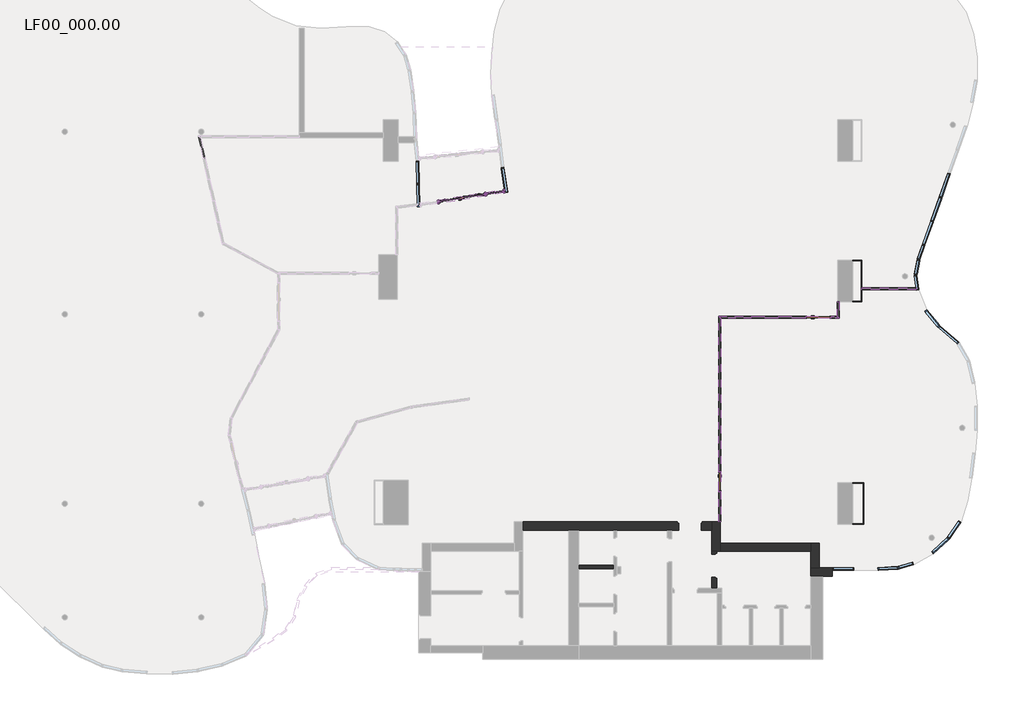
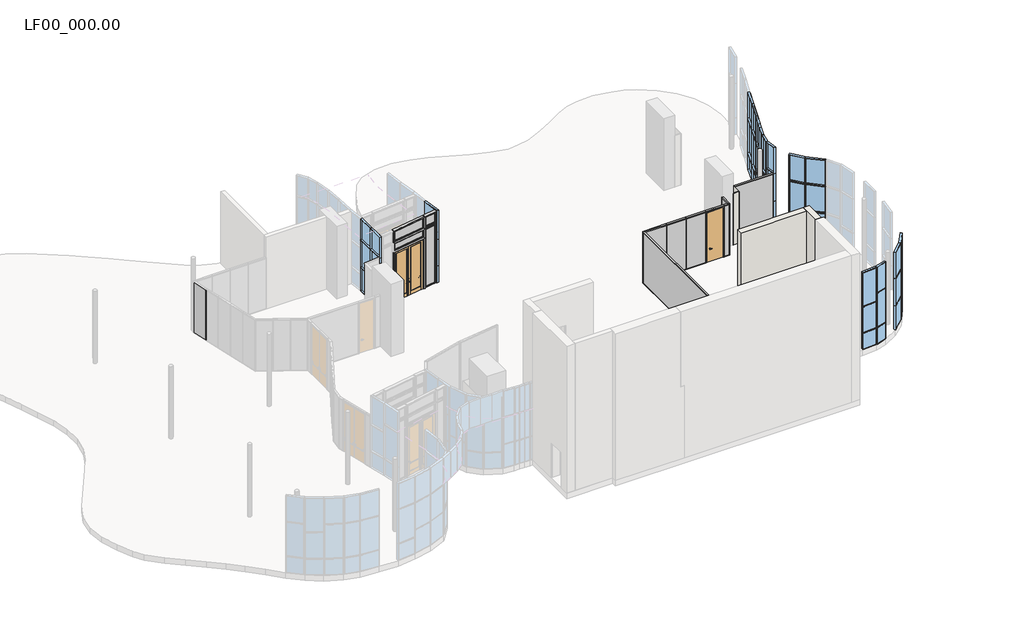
# One storey, part 4 of 8: 43 members, 16 windows, 13 plates, 13 walls, 3 doors.
"""IFC4 building model written with IfcOpenShell, lengths in millimetres."""

from ifc_helpers import new_model, si_unit, origin, origin_with_axes, place, context, project, spatial, polyline, outline, extrude, faceted_brep, transform, mapped, element, save
from components import door_f6d3ca97, ve_100_0215b1d1, ve_80_916fddef, montante_rettangolare_ac_025x025_ae409ff8, montante_rettangolare_ac_025x025_ba0b5886, montante_rettangolare_ac_025x025_25a4d1a1, montante_rettangolare_ac_025x025_21ed5f5e, montante_rettangolare_ac_025x025_512be482, montante_rettangolare_ac_025x025_d0ddf7e4, montante_rettangolare_ac_025x025_b97b00cb, montante_rettangolare_ac_025x025_a02916a3, montante_rettangolare_ac_080x010_f14e0e64, montante_rettangolare_ac_080x020_015a60fd, montante_rettangolare_ac_080x020_546eea0c, montante_rettangolare_ac_080x020_c2d88d0b, montante_rettangolare_ac_080x020_cc3f91c2, montante_rettangolare_ac_080x020_a9d1659b, montante_rettangolare_ac_080x020_e2273d97, montante_rettangolare_ac_080x020_6e751d40, montante_rettangolare_ac_080x020_f5492f73, montante_rettangolare_ac_080x050_ac485b46, montante_rettangolare_ac_080x050_48d6a012, montante_rettangolare_ac_080x050_753d6dd0, montante_rettangolare_ac_080x050_1630a953, montante_rettangolare_ac_080x050_d52ce292, montante_rettangolare_ac_080x050_49b4d1b0, montante_rettangolare_ac_080x050_6435da1d, montante_rettangolare_ac_080x050_6f641e4c, montante_rettangolare_ac_080x050_7b74cc76, montante_rettangolare_ac_080x050_322f2117, al_005_716bf069, al_005_61ed1d0d, ve3_036_4fdc355e, ve3_036_7e27dd58, ve3_036_99c6b09f, ve3_036_f3a40235, ve3_036_71a2fdf9, ve3_036_c729e5fc, ve3_036_0b4cc54c, ve3_036_5778ea7b, ve3_036_e27322a6, ve_005_f4ff7d61, ve_005_79e83a76, window_40431090, window_edb831b2, window_1ec7cec5, window_36c3ef3e, window_04857959, window_4195a185, window_a744d560, window_feeec594, window_dc9eccbe, window_7186550b, window_b0d2bd1e, window_e819848c

model = new_model("IFC4")

# Units and contexts
model_context = context("Model", 3, world=origin())
ifc_project = project(units=[si_unit("LENGTHUNIT", "METRE", prefix="MILLI")], contexts=[model_context])

# Site, building, storey
site = spatial("IfcSite", under=ifc_project)
building = spatial("IfcBuilding", under=site)
storey = spatial("IfcBuildingStorey", under=building, Name="LF00_000.00", Elevation=0.0)

# Doors
placement = place(None, origin())
door_shape = door_f6d3ca97(model_context)
element("IfcDoor", 1, ObjectType="TRP_CP_ARC_PO_2B_PM : AL_VE_005", at=placement, inside=storey, context=model_context, shape_type="MappedRepresentation", body=[
    mapped(door_shape, transform((-83705.1666834, 14920.6966931, 0.0), x_axis=(-0.9868814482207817, -0.1614466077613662, 0.0), y_axis=(0.1614466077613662, -0.9868814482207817, 0.0), z_axis=(0.0, 0.0, 1.0))),
])
ve_100_shape = ve_100_0215b1d1(model_context)
element("IfcDoor", 2, ObjectType="TRP_CP_ARC_PO_1B_PV : VE_100", at=placement, inside=storey, context=model_context, shape_type="MappedRepresentation", body=[
    mapped(ve_100_shape, transform((-69596.4250396, 10193.401192, 0.0), x_axis=(-1.0, 0.0, 0.0), y_axis=(0.0, -1.0, 0.0), z_axis=(0.0, 0.0, 1.0))),
])
ve_80_shape = ve_80_916fddef(model_context)
element("IfcDoor", 3, ObjectType="TRP_CP_ARC_PO_1B_PV : VE_80", at=placement, inside=storey, context=model_context, shape_type="MappedRepresentation", body=[
    mapped(ve_80_shape, transform((-73492.6132945, 3693.401192, 0.0), x_axis=(0.0, 1.0, 0.0), y_axis=(-1.0, 0.0, 0.0), z_axis=(0.0, 0.0, 1.0))),
])

# Members
montante_rettangolare_ac_025x025_shape = montante_rettangolare_ac_025x025_ae409ff8(model_context)
element("IfcMember", 4, ObjectType="Montante rettangolare : AC_025x025", at=placement, inside=storey, context=model_context, shape_type="MappedRepresentation", body=[
    mapped(montante_rettangolare_ac_025x025_shape, transform((-82008.7921487, 15198.2111956, 4199.970898), x_axis=(0.9868814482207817, 0.1614466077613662, 0.0), y_axis=(-0.1614466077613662, 0.9868814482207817, 0.0), z_axis=(0.0, 0.0, 1.0))),
])
montante_rettangolare_ac_025x025_2_shape = montante_rettangolare_ac_025x025_ba0b5886(model_context)
element("IfcMember", 5, ObjectType="Montante rettangolare : AC_025x025", at=placement, inside=storey, context=model_context, shape_type="MappedRepresentation", body=[
    mapped(montante_rettangolare_ac_025x025_2_shape, transform((-82767.6293076, 15074.0709704, 3500.0), x_axis=(-0.9868814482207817, -0.1614466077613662, 0.0), y_axis=(-0.1614466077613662, 0.9868814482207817, 0.0), z_axis=(0.0, 0.0, -1.0))),
])
element("IfcMember", 6, ObjectType="Montante rettangolare : AC_025x025", at=placement, inside=storey, context=model_context, shape_type="MappedRepresentation", body=[
    mapped(montante_rettangolare_ac_025x025_2_shape, transform((-84642.7040592, 14767.3224157, 3500.0), x_axis=(-0.9868814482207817, -0.1614466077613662, 0.0), y_axis=(-0.1614466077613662, 0.9868814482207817, 0.0), z_axis=(0.0, 0.0, -1.0))),
])
montante_rettangolare_ac_025x025_3_shape = montante_rettangolare_ac_025x025_25a4d1a1(model_context)
element("IfcMember", 7, ObjectType="Montante rettangolare : AC_025x025", at=placement, inside=storey, context=model_context, shape_type="MappedRepresentation", body=[
    mapped(montante_rettangolare_ac_025x025_3_shape, transform((-84618.032023, 14771.3585809, 4199.970898), x_axis=(0.0, 0.0, 1.0), y_axis=(-0.1614466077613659, 0.9868814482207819, 0.0), z_axis=(-0.9868814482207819, -0.1614466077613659, 0.0))),
])
montante_rettangolare_ac_025x025_4_shape = montante_rettangolare_ac_025x025_21ed5f5e(model_context)
element("IfcMember", 8, ObjectType="Montante rettangolare : AC_025x025", at=placement, inside=storey, context=model_context, shape_type="MappedRepresentation", body=[
    mapped(montante_rettangolare_ac_025x025_4_shape, transform((-82008.7921487, 15198.2111956, 3500.0), x_axis=(0.9868814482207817, 0.1614466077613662, 0.0), y_axis=(-0.1614466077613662, 0.9868814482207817, 0.0), z_axis=(0.0, 0.0, 1.0))),
])
montante_rettangolare_ac_025x025_5_shape = montante_rettangolare_ac_025x025_512be482(model_context)
element("IfcMember", 9, ObjectType="Montante rettangolare : AC_025x025", at=placement, inside=storey, context=model_context, shape_type="MappedRepresentation", body=[
    mapped(montante_rettangolare_ac_025x025_5_shape, transform((-82767.6293076, 15074.0709704, 2962.0), x_axis=(-0.9868814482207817, -0.1614466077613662, 0.0), y_axis=(-0.1614466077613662, 0.9868814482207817, 0.0), z_axis=(0.0, 0.0, -1.0))),
])
montante_rettangolare_ac_025x025_6_shape = montante_rettangolare_ac_025x025_d0ddf7e4(model_context)
element("IfcMember", 10, ObjectType="Montante rettangolare : AC_025x025", at=placement, inside=storey, context=model_context, shape_type="MappedRepresentation", body=[
    mapped(montante_rettangolare_ac_025x025_6_shape, transform((-82767.6293076, 15074.0709704, 0.0), x_axis=(-0.9868814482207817, -0.1614466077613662, 0.0), y_axis=(-0.1614466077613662, 0.9868814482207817, 0.0), z_axis=(0.0, 0.0, -1.0))),
])
element("IfcMember", 11, ObjectType="Montante rettangolare : AC_025x025", at=placement, inside=storey, context=model_context, shape_type="MappedRepresentation", body=[
    mapped(montante_rettangolare_ac_025x025_6_shape, transform((-84642.7040592, 14767.3224157, 0.0), x_axis=(-0.9868814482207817, -0.1614466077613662, 0.0), y_axis=(-0.1614466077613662, 0.9868814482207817, 0.0), z_axis=(0.0, 0.0, -1.0))),
])
montante_rettangolare_ac_025x025_7_shape = montante_rettangolare_ac_025x025_b97b00cb(model_context)
element("IfcMember", 12, ObjectType="Montante rettangolare : AC_025x025", at=placement, inside=storey, context=model_context, shape_type="MappedRepresentation", body=[
    mapped(montante_rettangolare_ac_025x025_7_shape, transform((-82008.7921487, 15198.2111956, 2962.0), x_axis=(0.9868814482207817, 0.1614466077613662, 0.0), y_axis=(-0.1614466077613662, 0.9868814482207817, 0.0), z_axis=(0.0, 0.0, 1.0))),
])
montante_rettangolare_ac_025x025_8_shape = montante_rettangolare_ac_025x025_a02916a3(model_context)
element("IfcMember", 13, ObjectType="Montante rettangolare : AC_025x025", at=placement, inside=storey, context=model_context, shape_type="MappedRepresentation", body=[
    mapped(montante_rettangolare_ac_025x025_8_shape, transform((-82742.9572714, 15078.1071356, 3500.0), x_axis=(0.0, 0.0, 1.0), y_axis=(-0.16144660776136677, 0.9868814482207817, 0.0), z_axis=(-0.9868814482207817, -0.16144660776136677, 0.0))),
])
element("IfcMember", 14, ObjectType="Montante rettangolare : AC_025x025", at=placement, inside=storey, context=model_context, shape_type="MappedRepresentation", body=[
    mapped(montante_rettangolare_ac_025x025_8_shape, transform((-82742.9572714, 15078.1071356, 4199.970898), x_axis=(0.0, 0.0, 1.0), y_axis=(-0.1614466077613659, 0.9868814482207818, 0.0), z_axis=(-0.9868814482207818, -0.1614466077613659, 0.0))),
])
montante_rettangolare_ac_080x010_shape = montante_rettangolare_ac_080x010_f14e0e64(model_context)
element("IfcMember", 15, ObjectType="Montante rettangolare : AC_080x010", at=placement, inside=storey, context=model_context, shape_type="MappedRepresentation", body=[
    mapped(montante_rettangolare_ac_080x010_shape, transform((-73492.6132945, 3288.401192, 20.0), x_axis=(0.0, -1.0, 0.0), y_axis=(-1.0, 0.0, 0.0), z_axis=(0.0, 0.0, -1.0))),
])
element("IfcMember", 16, ObjectType="Montante rettangolare : AC_080x010", at=placement, inside=storey, context=model_context, shape_type="MappedRepresentation", body=[
    mapped(montante_rettangolare_ac_080x010_shape, transform((-73492.6132945, 4088.401192, 20.0), x_axis=(0.0, -1.0, 0.0), y_axis=(-1.0, 0.0, 0.0), z_axis=(0.0, 0.0, -1.0))),
])
element("IfcMember", 17, ObjectType="Montante rettangolare : AC_080x010", at=placement, inside=storey, context=model_context, shape_type="MappedRepresentation", body=[
    mapped(montante_rettangolare_ac_080x010_shape, transform((-69081.4250396, 10193.401192, 20.0), x_axis=(1.0, 0.0, 0.0), y_axis=(0.0, -1.0, 0.0), z_axis=(0.0, 0.0, -1.0))),
])
element("IfcMember", 18, ObjectType="Montante rettangolare : AC_080x010", at=placement, inside=storey, context=model_context, shape_type="MappedRepresentation", body=[
    mapped(montante_rettangolare_ac_080x010_shape, transform((-70101.4250396, 10193.401192, 20.0), x_axis=(1.0, 0.0, 0.0), y_axis=(0.0, -1.0, 0.0), z_axis=(0.0, 0.0, -1.0))),
])
element("IfcMember", 19, ObjectType="Montante rettangolare : AC_080x010", at=placement, inside=storey, context=model_context, shape_type="MappedRepresentation", body=[
    mapped(montante_rettangolare_ac_080x010_shape, transform((-73492.6132945, 2093.401192, 20.0), x_axis=(0.0, -1.0, 0.0), y_axis=(-1.0, 0.0, 0.0), z_axis=(0.0, 0.0, -1.0))),
])
element("IfcMember", 20, ObjectType="Montante rettangolare : AC_080x010", at=placement, inside=storey, context=model_context, shape_type="MappedRepresentation", body=[
    mapped(montante_rettangolare_ac_080x010_shape, transform((-68811.4250396, 10803.401192, 20.0), x_axis=(0.0, 1.0, 0.0), y_axis=(1.0, 0.0, 0.0), z_axis=(0.0, 0.0, -1.0))),
])
element("IfcMember", 21, ObjectType="Montante rettangolare : AC_080x010", at=placement, inside=storey, context=model_context, shape_type="MappedRepresentation", body=[
    mapped(montante_rettangolare_ac_080x010_shape, transform((-68811.4250396, 10193.401192, 20.0), x_axis=(1.0, 0.0, 0.0), y_axis=(0.0, -1.0, 0.0), z_axis=(0.0, 0.0, -1.0))),
])
element("IfcMember", 22, ObjectType="Montante rettangolare : AC_080x010", at=placement, inside=storey, context=model_context, shape_type="MappedRepresentation", body=[
    mapped(montante_rettangolare_ac_080x010_shape, transform((-65718.8409667, 11318.401192, 20.0), x_axis=(1.0, 0.0, 0.0), y_axis=(0.0, -1.0, 0.0), z_axis=(0.0, 0.0, -1.0))),
])
element("IfcMember", 23, ObjectType="Montante rettangolare : AC_080x010", at=placement, inside=storey, context=model_context, shape_type="MappedRepresentation", body=[
    mapped(montante_rettangolare_ac_080x010_shape, transform((-73492.6132945, 10193.401192, 2950.0), x_axis=(0.0, 1.0, 0.0), y_axis=(-1.0, 0.0, 0.0), z_axis=(0.0, 0.0, 1.0))),
])
element("IfcMember", 24, ObjectType="Montante rettangolare : AC_080x010", at=placement, inside=storey, context=model_context, shape_type="MappedRepresentation", body=[
    mapped(montante_rettangolare_ac_080x010_shape, transform((-68811.4250396, 10193.401192, 2950.0), x_axis=(0.0, -1.0, 0.0), y_axis=(1.0, 0.0, 0.0), z_axis=(0.0, 0.0, 1.0))),
])
element("IfcMember", 25, ObjectType="Montante rettangolare : AC_080x010", at=placement, inside=storey, context=model_context, shape_type="MappedRepresentation", body=[
    mapped(montante_rettangolare_ac_080x010_shape, transform((-71186.4250396, 10193.401192, 2950.0), x_axis=(-1.0, 0.0, 0.0), y_axis=(0.0, -1.0, 0.0), z_axis=(0.0, 0.0, 1.0))),
])
element("IfcMember", 26, ObjectType="Montante rettangolare : AC_080x010", at=placement, inside=storey, context=model_context, shape_type="MappedRepresentation", body=[
    mapped(montante_rettangolare_ac_080x010_shape, transform((-72256.4250396, 10193.401192, 2950.0), x_axis=(-1.0, 0.0, 0.0), y_axis=(0.0, -1.0, 0.0), z_axis=(0.0, 0.0, 1.0))),
])
element("IfcMember", 27, ObjectType="Montante rettangolare : AC_080x010", at=placement, inside=storey, context=model_context, shape_type="MappedRepresentation", body=[
    mapped(montante_rettangolare_ac_080x010_shape, transform((-73492.6132945, 10193.401192, 2950.0), x_axis=(-1.0, 0.0, 0.0), y_axis=(0.0, -1.0, 0.0), z_axis=(0.0, 0.0, 1.0))),
])
element("IfcMember", 28, ObjectType="Montante rettangolare : AC_080x010", at=placement, inside=storey, context=model_context, shape_type="MappedRepresentation", body=[
    mapped(montante_rettangolare_ac_080x010_shape, transform((-67876.4250395, 11318.401192, 2950.0), x_axis=(-1.0, 0.0, 0.0), y_axis=(0.0, -1.0, 0.0), z_axis=(0.0, 0.0, 1.0))),
])
montante_rettangolare_ac_080x020_shape = montante_rettangolare_ac_080x020_015a60fd(model_context)
element("IfcMember", 29, ObjectType="Montante rettangolare : AC_080x020", at=placement, inside=storey, context=model_context, shape_type="MappedRepresentation", body=[
    mapped(montante_rettangolare_ac_080x020_shape, transform((-68811.4250396, 10193.401192, 0.0), x_axis=(0.0, 0.0, -1.0), y_axis=(1.0, 0.0, 0.0), z_axis=(0.0, -1.0, 0.0))),
])
montante_rettangolare_ac_080x020_2_shape = montante_rettangolare_ac_080x020_546eea0c(model_context)
element("IfcMember", 30, ObjectType="Montante rettangolare : AC_080x020", at=placement, inside=storey, context=model_context, shape_type="MappedRepresentation", body=[
    mapped(montante_rettangolare_ac_080x020_2_shape, transform((-73492.6132945, 3298.401192, 0.0), x_axis=(0.0, 0.0, -1.0), y_axis=(-1.0, 0.0, 0.0), z_axis=(0.0, 1.0, 0.0))),
])
montante_rettangolare_ac_080x020_3_shape = montante_rettangolare_ac_080x020_c2d88d0b(model_context)
element("IfcMember", 31, ObjectType="Montante rettangolare : AC_080x020", at=placement, inside=storey, context=model_context, shape_type="MappedRepresentation", body=[
    mapped(montante_rettangolare_ac_080x020_3_shape, transform((-69091.4250396, 10193.401192, 0.0), x_axis=(0.0, 0.0, -1.0), y_axis=(0.0, -1.0, 0.0), z_axis=(-1.0, 0.0, 0.0))),
])
montante_rettangolare_ac_080x020_4_shape = montante_rettangolare_ac_080x020_cc3f91c2(model_context)
element("IfcMember", 32, ObjectType="Montante rettangolare : AC_080x020", at=placement, inside=storey, context=model_context, shape_type="MappedRepresentation", body=[
    mapped(montante_rettangolare_ac_080x020_4_shape, transform((-72256.4250396, 10193.401192, 0.0), x_axis=(0.0, 0.0, -1.0), y_axis=(0.0, -1.0, 0.0), z_axis=(-1.0, 0.0, 0.0))),
])
montante_rettangolare_ac_080x020_5_shape = montante_rettangolare_ac_080x020_a9d1659b(model_context)
element("IfcMember", 33, ObjectType="Montante rettangolare : AC_080x020", at=placement, inside=storey, context=model_context, shape_type="MappedRepresentation", body=[
    mapped(montante_rettangolare_ac_080x020_5_shape, transform((-71186.4250396, 10193.401192, 0.0), x_axis=(0.0, 0.0, -1.0), y_axis=(0.0, -1.0, 0.0), z_axis=(-1.0, 0.0, 0.0))),
])
montante_rettangolare_ac_080x020_6_shape = montante_rettangolare_ac_080x020_e2273d97(model_context)
element("IfcMember", 34, ObjectType="Montante rettangolare : AC_080x020", at=placement, inside=storey, context=model_context, shape_type="MappedRepresentation", body=[
    mapped(montante_rettangolare_ac_080x020_6_shape, transform((-73492.6132945, 10193.401192, 0.0), x_axis=(0.0, 0.0, -1.0), y_axis=(-1.0, 0.0, 0.0), z_axis=(0.0, 1.0, 0.0))),
])
montante_rettangolare_ac_080x020_7_shape = montante_rettangolare_ac_080x020_6e751d40(model_context)
element("IfcMember", 35, ObjectType="Montante rettangolare : AC_080x020", at=placement, inside=storey, context=model_context, shape_type="MappedRepresentation", body=[
    mapped(montante_rettangolare_ac_080x020_7_shape, transform((-73492.6132945, 10193.401192, 0.0), x_axis=(0.0, 0.0, -1.0), y_axis=(0.0, -1.0, 0.0), z_axis=(-1.0, 0.0, 0.0))),
])
montante_rettangolare_ac_080x020_8_shape = montante_rettangolare_ac_080x020_f5492f73(model_context)
element("IfcMember", 36, ObjectType="Montante rettangolare : AC_080x020", at=placement, inside=storey, context=model_context, shape_type="MappedRepresentation", body=[
    mapped(montante_rettangolare_ac_080x020_8_shape, transform((-67876.4250395, 11318.401192, 0.0), x_axis=(0.0, 0.0, -1.0), y_axis=(0.0, -1.0, 0.0), z_axis=(-1.0, 0.0, 0.0))),
])
montante_rettangolare_ac_080x050_shape = montante_rettangolare_ac_080x050_ac485b46(model_context)
element("IfcMember", 37, ObjectType="Montante rettangolare : AC_080x050", at=placement, inside=storey, context=model_context, shape_type="MappedRepresentation", body=[
    mapped(montante_rettangolare_ac_080x050_shape, transform((-73492.6132945, 2093.401192, 3000.0), x_axis=(0.0, 0.0, 1.0), y_axis=(-1.0, 0.0, 0.0), z_axis=(0.0, -1.0, 0.0))),
])
montante_rettangolare_ac_080x050_2_shape = montante_rettangolare_ac_080x050_48d6a012(model_context)
element("IfcMember", 38, ObjectType="Montante rettangolare : AC_080x050", at=placement, inside=storey, context=model_context, shape_type="MappedRepresentation", body=[
    mapped(montante_rettangolare_ac_080x050_2_shape, transform((-73492.6132945, 3288.401192, 3000.0), x_axis=(0.0, 0.0, 1.0), y_axis=(-1.0, 0.0, 0.0), z_axis=(0.0, -1.0, 0.0))),
])
montante_rettangolare_ac_080x050_3_shape = montante_rettangolare_ac_080x050_753d6dd0(model_context)
element("IfcMember", 39, ObjectType="Montante rettangolare : AC_080x050", at=placement, inside=storey, context=model_context, shape_type="MappedRepresentation", body=[
    mapped(montante_rettangolare_ac_080x050_3_shape, transform((-68811.4250396, 10803.401192, 3000.0), x_axis=(0.0, 0.0, 1.0), y_axis=(1.0, 0.0, 0.0), z_axis=(0.0, 1.0, 0.0))),
])
montante_rettangolare_ac_080x050_4_shape = montante_rettangolare_ac_080x050_1630a953(model_context)
element("IfcMember", 40, ObjectType="Montante rettangolare : AC_080x050", at=placement, inside=storey, context=model_context, shape_type="MappedRepresentation", body=[
    mapped(montante_rettangolare_ac_080x050_4_shape, transform((-68811.4250396, 10193.401192, 3000.0), x_axis=(0.0, 0.0, 1.0), y_axis=(0.0, -1.0, 0.0), z_axis=(1.0, 0.0, 0.0))),
])
montante_rettangolare_ac_080x050_5_shape = montante_rettangolare_ac_080x050_d52ce292(model_context)
element("IfcMember", 41, ObjectType="Montante rettangolare : AC_080x050", at=placement, inside=storey, context=model_context, shape_type="MappedRepresentation", body=[
    mapped(montante_rettangolare_ac_080x050_5_shape, transform((-69081.4250396, 10193.401192, 3000.0), x_axis=(0.0, 0.0, 1.0), y_axis=(0.0, -1.0, 0.0), z_axis=(1.0, 0.0, 0.0))),
])
montante_rettangolare_ac_080x050_6_shape = montante_rettangolare_ac_080x050_49b4d1b0(model_context)
element("IfcMember", 42, ObjectType="Montante rettangolare : AC_080x050", at=placement, inside=storey, context=model_context, shape_type="MappedRepresentation", body=[
    mapped(montante_rettangolare_ac_080x050_6_shape, transform((-70101.4250396, 10193.401192, 3000.0), x_axis=(0.0, 0.0, 1.0), y_axis=(0.0, -1.0, 0.0), z_axis=(1.0, 0.0, 0.0))),
])
montante_rettangolare_ac_080x050_7_shape = montante_rettangolare_ac_080x050_6435da1d(model_context)
element("IfcMember", 43, ObjectType="Montante rettangolare : AC_080x050", at=placement, inside=storey, context=model_context, shape_type="MappedRepresentation", body=[
    mapped(montante_rettangolare_ac_080x050_7_shape, transform((-72256.4250396, 10193.401192, 3000.0), x_axis=(0.0, 0.0, 1.0), y_axis=(0.0, -1.0, 0.0), z_axis=(1.0, 0.0, 0.0))),
])
montante_rettangolare_ac_080x050_8_shape = montante_rettangolare_ac_080x050_6f641e4c(model_context)
element("IfcMember", 44, ObjectType="Montante rettangolare : AC_080x050", at=placement, inside=storey, context=model_context, shape_type="MappedRepresentation", body=[
    mapped(montante_rettangolare_ac_080x050_8_shape, transform((-73492.6132945, 4088.401192, 3000.0), x_axis=(0.0, 0.0, 1.0), y_axis=(-1.0, 0.0, 0.0), z_axis=(0.0, -1.0, 0.0))),
])
montante_rettangolare_ac_080x050_9_shape = montante_rettangolare_ac_080x050_7b74cc76(model_context)
element("IfcMember", 45, ObjectType="Montante rettangolare : AC_080x050", at=placement, inside=storey, context=model_context, shape_type="MappedRepresentation", body=[
    mapped(montante_rettangolare_ac_080x050_9_shape, transform((-71186.4250396, 10193.401192, 3000.0), x_axis=(0.0, 0.0, 1.0), y_axis=(0.0, -1.0, 0.0), z_axis=(1.0, 0.0, 0.0))),
])
montante_rettangolare_ac_080x050_10_shape = montante_rettangolare_ac_080x050_322f2117(model_context)
element("IfcMember", 46, ObjectType="Montante rettangolare : AC_080x050", at=placement, inside=storey, context=model_context, shape_type="MappedRepresentation", body=[
    mapped(montante_rettangolare_ac_080x050_10_shape, transform((-65718.8409667, 11318.401192, 3000.0), x_axis=(0.0, 0.0, 1.0), y_axis=(0.0, -1.0, 0.0), z_axis=(1.0, 0.0, 0.0))),
])

# Plates
al_005_shape = al_005_716bf069(model_context)
element("IfcPlate", 47, ObjectType="TRP_CP_ARC_PF_RE : AL_005", at=placement, inside=storey, context=model_context, shape_type="MappedRepresentation", body=[
    mapped(al_005_shape, transform((-83705.1666834, 14920.6966931, 3500.0), x_axis=(-0.9868814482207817, -0.1614466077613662, 0.0), y_axis=(0.1614466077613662, -0.9868814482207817, 0.0), z_axis=(0.0, 0.0, 1.0))),
])
al_005_2_shape = al_005_61ed1d0d(model_context)
element("IfcPlate", 48, ObjectType="TRP_CP_ARC_PF_RE : AL_005", at=placement, inside=storey, context=model_context, shape_type="MappedRepresentation", body=[
    mapped(al_005_2_shape, transform((-82400.5467463, 15134.1230004, 3500.0), x_axis=(-0.9868814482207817, -0.1614466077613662, 0.0), y_axis=(0.1614466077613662, -0.9868814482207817, 0.0), z_axis=(0.0, 0.0, 1.0))),
])
ve3_036_shape = ve3_036_4fdc355e(model_context)
element("IfcPlate", 49, ObjectType="TRP_CP_ARC_PF_RE_SE : VE3_036", at=placement, inside=storey, context=model_context, shape_type="MappedRepresentation", body=[
    mapped(ve3_036_shape, transform((-94005.2374187, 16917.4774377, 20.0), x_axis=(-0.217166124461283, 0.9761346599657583, 0.0), y_axis=(-0.9761346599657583, -0.217166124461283, 0.0), z_axis=(0.0, 0.0, 1.0))),
])
ve3_036_2_shape = ve3_036_7e27dd58(model_context)
element("IfcPlate", 50, ObjectType="TRP_CP_ARC_PF_RE_SE : VE3_036", at=placement, inside=storey, context=model_context, shape_type="MappedRepresentation", body=[
    mapped(ve3_036_2_shape, transform((-73492.6132945, 2695.901192, 20.0), x_axis=(0.0, -1.0, 0.0), y_axis=(1.0, 0.0, 0.0), z_axis=(0.0, 0.0, 1.0))),
])
ve3_036_3_shape = ve3_036_99c6b09f(model_context)
element("IfcPlate", 51, ObjectType="TRP_CP_ARC_PF_RE_SE : VE3_036", at=placement, inside=storey, context=model_context, shape_type="MappedRepresentation", body=[
    mapped(ve3_036_3_shape, transform((-73492.6132945, 7140.901192, 20.0), x_axis=(0.0, -1.0, 0.0), y_axis=(1.0, 0.0, 0.0), z_axis=(0.0, 0.0, 1.0))),
])
ve3_036_4_shape = ve3_036_f3a40235(model_context)
element("IfcPlate", 52, ObjectType="TRP_CP_ARC_PF_RE_SE : VE3_036", at=placement, inside=storey, context=model_context, shape_type="MappedRepresentation", body=[
    mapped(ve3_036_4_shape, transform((-68951.4250396, 10193.401192, 20.0), x_axis=(1.0, 0.0, 0.0), y_axis=(0.0, 1.0, 0.0), z_axis=(0.0, 0.0, 1.0))),
])
ve3_036_5_shape = ve3_036_71a2fdf9(model_context)
element("IfcPlate", 53, ObjectType="TRP_CP_ARC_PF_RE_SE : VE3_036", at=placement, inside=storey, context=model_context, shape_type="MappedRepresentation", body=[
    mapped(ve3_036_5_shape, transform((-68811.4250396, 10498.401192, 20.0), x_axis=(0.0, 1.0, 0.0), y_axis=(-1.0, 0.0, 0.0), z_axis=(0.0, 0.0, 1.0))),
])
ve3_036_6_shape = ve3_036_c729e5fc(model_context)
element("IfcPlate", 54, ObjectType="TRP_CP_ARC_PF_RE_SE : VE3_036", at=placement, inside=storey, context=model_context, shape_type="MappedRepresentation", body=[
    mapped(ve3_036_6_shape, transform((-70643.9250396, 10193.401192, 20.0), x_axis=(1.0, 0.0, 0.0), y_axis=(0.0, 1.0, 0.0), z_axis=(0.0, 0.0, 1.0))),
])
ve3_036_7_shape = ve3_036_0b4cc54c(model_context)
element("IfcPlate", 55, ObjectType="TRP_CP_ARC_PF_RE_SE : VE3_036", at=placement, inside=storey, context=model_context, shape_type="MappedRepresentation", body=[
    mapped(ve3_036_7_shape, transform((-71716.4250396, 10193.401192, 20.0), x_axis=(1.0, 0.0, 0.0), y_axis=(0.0, 1.0, 0.0), z_axis=(0.0, 0.0, 1.0))),
])
ve3_036_8_shape = ve3_036_5778ea7b(model_context)
element("IfcPlate", 56, ObjectType="TRP_CP_ARC_PF_RE_SE : VE3_036", at=placement, inside=storey, context=model_context, shape_type="MappedRepresentation", body=[
    mapped(ve3_036_8_shape, transform((-72869.519167, 10193.401192, 20.0), x_axis=(1.0, 0.0, 0.0), y_axis=(0.0, 1.0, 0.0), z_axis=(0.0, 0.0, 1.0))),
])
ve3_036_9_shape = ve3_036_e27322a6(model_context)
element("IfcPlate", 57, ObjectType="TRP_CP_ARC_PF_RE_SE : VE3_036", at=placement, inside=storey, context=model_context, shape_type="MappedRepresentation", body=[
    mapped(ve3_036_9_shape, transform((-66797.6330031, 11318.401192, 20.0), x_axis=(1.0, 0.0, 0.0), y_axis=(0.0, 1.0, 0.0), z_axis=(0.0, 0.0, 1.0))),
])
ve_005_shape = ve_005_f4ff7d61(model_context)
element("IfcPlate", 58, ObjectType="TRP_CP_ARC_PF_RE : VE_005", at=placement, inside=storey, context=model_context, shape_type="MappedRepresentation", body=[
    mapped(ve_005_shape, transform((-83705.1666834, 14920.6966931, 2987.0), x_axis=(-0.9868814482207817, -0.1614466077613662, 0.0), y_axis=(0.1614466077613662, -0.9868814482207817, 0.0), z_axis=(0.0, 0.0, 1.0))),
])
ve_005_2_shape = ve_005_79e83a76(model_context)
element("IfcPlate", 59, ObjectType="TRP_CP_ARC_PF_RE : VE_005", at=placement, inside=storey, context=model_context, shape_type="MappedRepresentation", body=[
    mapped(ve_005_2_shape, transform((-82400.5467463, 15134.1230004, 0.0), x_axis=(-0.9868814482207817, -0.1614466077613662, 0.0), y_axis=(0.1614466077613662, -0.9868814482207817, 0.0), z_axis=(0.0, 0.0, 1.0))),
])

# Walls
element("IfcWall", 60, ObjectType="CG_003_ND", at=placement, inside=storey, context=model_context, shape_type="Brep", body=[
    faceted_brep([(-68226.4250396, 12428.401192, 0.0), (-67901.4250395, 12428.401192, 0.0), (-67876.4250395, 12428.401192, 0.0), (-67876.4250395, 12428.401192, 3000.0), (-67901.4250395, 12428.401192, 3000.0), (-68226.4250396, 12428.401192, 3000.0), (-68226.4250396, 12453.401192, 0.0), (-68226.4250396, 12453.401192, 3000.0), (-67876.4250395, 12453.401192, 3000.0), (-67876.4250395, 12453.401192, 0.0)], [[[0, 1, 2, 3, 4, 5]], [[6, 7, 8, 9]], [[2, 1, 0, 6, 9]], [[5, 4, 3, 8, 7]], [[0, 5, 7, 6]], [[3, 2, 9, 8]]]),
])
element("IfcWall", 61, ObjectType="CG_003_ND", at=placement, inside=storey, context=model_context, shape_type="Brep", body=[
    faceted_brep([(-67901.4250395, 12428.401192, 0.0), (-67901.4250395, 10828.401192, 0.0), (-67901.4250395, 10803.401192, 0.0), (-67901.4250395, 10803.401192, 3000.0), (-67901.4250395, 10828.401192, 3000.0), (-67901.4250395, 12428.401192, 3000.0), (-67876.4250395, 12428.401192, 0.0), (-67876.4250395, 12428.401192, 3000.0), (-67876.4250395, 10803.401192, 3000.0), (-67876.4250395, 10803.401192, 0.0)], [[[0, 1, 2, 3, 4, 5]], [[6, 7, 8, 9]], [[2, 1, 0, 6, 9]], [[5, 4, 3, 8, 7]], [[0, 5, 7, 6]], [[3, 2, 9, 8]]]),
])
element("IfcWall", 62, ObjectType="CG_003_ND", at=placement, inside=storey, context=model_context, shape_type="SweptSolid", body=[
    extrude(outline(polyline([(-68226.4250396, 10828.401192), (-67901.4250395, 10828.401192), (-67901.4250395, 10803.401192), (-68226.4250396, 10803.401192), (-68226.4250396, 10828.401192)])), origin_with_axes(), (0.0, 0.0, 1.0), 3000.0),
])
element("IfcWall", 63, ObjectType="CG_003_ND", at=placement, inside=storey, context=model_context, shape_type="Brep", body=[
    faceted_brep([(-68226.4248066, 3624.3949739, 0.0), (-67820.4135752, 3624.3949739, 0.0), (-67795.4135752, 3624.3949739, 0.0), (-67795.4135752, 3624.3949739, 3000.0), (-67820.4135752, 3624.3949739, 3000.0), (-68226.4248066, 3624.3949739, 3000.0), (-68226.4248066, 3649.3949739, 0.0), (-68226.4248066, 3649.3949739, 3000.0), (-67795.4135752, 3649.3949739, 3000.0), (-67795.4135752, 3649.3949739, 0.0)], [[[0, 1, 2, 3, 4, 5]], [[6, 7, 8, 9]], [[2, 1, 0, 6, 9]], [[5, 4, 3, 8, 7]], [[0, 5, 7, 6]], [[3, 2, 9, 8]]]),
])
element("IfcWall", 64, ObjectType="CG_003_ND", at=placement, inside=storey, context=model_context, shape_type="SweptSolid", body=[
    extrude(outline(polyline([(-67820.4135752, 2024.3949739), (-67820.4135752, 3624.3949739), (-67795.4135752, 3624.3949739), (-67795.4135752, 2024.3949739), (-67820.4135752, 2024.3949739)])), origin_with_axes(), (0.0, 0.0, 1.0), 3000.0),
])
element("IfcWall", 65, ObjectType="CG_003_ND", at=placement, inside=storey, context=model_context, shape_type="Brep", body=[
    faceted_brep([(-68226.4248066, 1999.3949739, 0.0), (-67795.4135752, 1999.3949739, 0.0), (-67795.4135752, 1999.3949739, 3000.0), (-68226.4248066, 1999.3949739, 3000.0), (-68226.4248066, 2024.3949739, 0.0), (-68226.4248066, 2024.3949739, 3000.0), (-67820.4135752, 2024.3949739, 3000.0), (-67795.4135752, 2024.3949739, 3000.0), (-67795.4135752, 2024.3949739, 0.0), (-67820.4135752, 2024.3949739, 0.0)], [[[0, 1, 2, 3]], [[4, 5, 6, 7, 8, 9]], [[1, 0, 4, 9, 8]], [[3, 2, 7, 6, 5]], [[0, 3, 5, 4]], [[2, 1, 8, 7]]]),
])
element("IfcWall", 66, ObjectType="T13", at=placement, inside=storey, context=model_context, shape_type="SweptSolid", body=[
    extrude(outline(polyline([(-77702.4250396, 238.401192), (-79072.4250396, 238.401192), (-79072.4250396, 373.401192), (-77702.4250396, 373.401192), (-77702.4250396, 238.401192)])), origin_with_axes(), (0.0, 0.0, 1.0), 4200.0),
])
element("IfcWall", 67, ObjectType="T7", at=placement, inside=storey, context=model_context, shape_type="Brep", body=[
    faceted_brep([(-73804.6132945, 1763.401192, 4200.0), (-75399.1899595, 1763.401192, 4200.0), (-75579.1899595, 1763.401192, 4200.0), (-77567.4250396, 1763.401192, 4200.0), (-77702.4250396, 1763.401192, 4200.0), (-79072.4250396, 1763.401192, 4200.0), (-79472.4250396, 1763.401192, 4200.0), (-81294.6132945, 1763.401192, 4200.0), (-81294.6132945, 1763.401192, 0.0), (-79472.4250396, 1763.401192, 0.0), (-79072.4250396, 1763.401192, 0.0), (-77702.4250396, 1763.401192, 0.0), (-77567.4250396, 1763.401192, 0.0), (-75579.1899595, 1763.401192, 0.0), (-75399.1899595, 1763.401192, 0.0), (-75129.1899595, 1763.401192, 0.0), (-75129.1899595, 1763.401192, 2400.0), (-74229.1899595, 1763.401192, 2400.0), (-74229.1899595, 1763.401192, 0.0), (-73804.6132945, 1763.401192, 0.0), (-81294.6132945, 2093.401192, 4200.0), (-73804.6132945, 2093.401192, 4200.0), (-73804.6132945, 2093.401192, 0.0), (-74184.1899595, 2093.401192, 0.0), (-74184.1899595, 2093.401192, 2445.0), (-75174.1899595, 2093.401192, 2445.0), (-75174.1899595, 2093.401192, 0.0), (-81294.6132945, 2093.401192, 0.0), (-75174.1899595, 2033.401192, 0.0), (-75129.1899595, 2033.401192, 0.0), (-74229.1899595, 2033.401192, 0.0), (-74184.1899595, 2033.401192, 0.0), (-75129.1899595, 2033.401192, 2400.0), (-74184.1899595, 2033.401192, 2445.0), (-75174.1899595, 2033.401192, 2445.0), (-74229.1899595, 2033.401192, 2400.0)], [[[0, 1, 2, 3, 4, 5, 6, 7, 8, 9, 10, 11, 12, 13, 14, 15, 16, 17, 18, 19]], [[20, 21, 22, 23, 24, 25, 26, 27]], [[8, 27, 26, 28, 29, 15, 14, 13, 12, 11, 10, 9]], [[22, 19, 18, 30, 31, 23]], [[7, 6, 5, 4, 3, 2, 1, 0, 21, 20]], [[8, 7, 20, 27]], [[32, 16, 15, 29]], [[33, 34, 25, 24]], [[34, 28, 26, 25]], [[0, 19, 22, 21]], [[16, 32, 35, 17]], [[17, 35, 30, 18]], [[35, 32, 29, 28, 34, 33, 31, 30]], [[31, 33, 24, 23]]]),
])
element("IfcWall", 68, ObjectType="T7", at=placement, inside=storey, context=model_context, shape_type="Brep", body=[
    faceted_brep([(-73804.6132945, 2093.401192, 0.0), (-73804.6132945, 1763.401192, 0.0), (-73804.6132945, 923.401192, 0.0), (-73804.6132945, 923.401192, 4200.0), (-73804.6132945, 1763.401192, 4200.0), (-73804.6132945, 2093.401192, 4200.0), (-73474.6132945, 2093.401192, 0.0), (-73474.6132945, 2093.401192, 4200.0), (-73474.6132945, 923.401192, 4200.0), (-73474.6132945, 923.401192, 0.0), (-73474.6132945, 1253.401192, 0.0), (-73624.6132945, 923.401192, 0.0), (-73624.6132945, 923.401192, 4200.0)], [[[0, 1, 2, 3, 4, 5]], [[6, 7, 8, 9, 10]], [[2, 1, 0, 6, 10, 9, 11]], [[5, 4, 3, 12, 8, 7]], [[3, 2, 11, 9, 8, 12]], [[0, 5, 7, 6]]]),
])
element("IfcWall", 69, ObjectType="T7", at=placement, inside=storey, context=model_context, shape_type="Brep", body=[
    faceted_brep([(-73474.6132945, 923.401192, 0.0), (-69883.995124, 923.401192, 0.0), (-69883.995124, 923.401192, 8540.0), (-73474.6132945, 923.401192, 8540.0), (-73474.6132945, 923.401192, 4460.0), (-73474.6132945, 923.401192, 4361.0), (-73474.6132945, 923.401192, 4200.0), (-73474.6132945, 1253.401192, 0.0), (-73474.6132945, 1253.401192, 4200.0), (-73474.6132945, 1253.401192, 4361.0), (-73474.6132945, 1253.401192, 4460.0), (-73474.6132945, 1253.401192, 8540.0), (-69883.995124, 1253.401192, 8540.0), (-69883.995124, 1253.401192, 0.0)], [[[0, 1, 2, 3, 4, 5, 6]], [[7, 8, 9, 10, 11, 12, 13]], [[1, 0, 7, 13]], [[3, 2, 12, 11]], [[0, 6, 5, 4, 3, 11, 10, 9, 8, 7]], [[2, 1, 13, 12]]]),
])
element("IfcWall", 70, ObjectType="T7", at=placement, inside=storey, context=model_context, shape_type="Brep", body=[
    faceted_brep([(-69883.995124, 1253.401192, 0.0), (-69883.995124, 923.401192, 0.0), (-69883.995124, 278.401192, 0.0), (-69883.995124, 278.401192, 4500.0), (-69883.995124, 113.401192, 4500.0), (-69883.995124, 113.401192, 8540.0), (-69883.995124, 923.401192, 8540.0), (-69883.995124, 1253.401192, 8540.0), (-69553.995124, 1253.401192, 0.0), (-69553.995124, 1253.401192, 8540.0), (-69553.995124, 113.401192, 8540.0), (-69553.995124, 113.401192, 4500.0), (-69553.995124, 278.401192, 4500.0), (-69553.995124, 278.401192, 0.0)], [[[0, 1, 2, 3, 4, 5, 6, 7]], [[8, 9, 10, 11, 12, 13]], [[2, 1, 0, 8, 13]], [[7, 6, 5, 10, 9]], [[0, 7, 9, 8]], [[5, 4, 11, 10]], [[11, 4, 3, 12]], [[3, 2, 13, 12]]]),
])
element("IfcWall", 71, ObjectType="T7", at=placement, inside=storey, context=model_context, shape_type="Brep", body=[
    faceted_brep([(-69883.995124, -51.598808, 0.0), (-69413.995124, -51.598808, 0.0), (-69034.1798495, -51.598808, 0.0), (-69034.1798495, -51.598808, 4500.0), (-69413.995124, -51.598808, 4500.0), (-69883.995124, -51.598808, 4500.0), (-69883.995124, 278.401192, 0.0), (-69883.995124, 278.401192, 4500.0), (-69553.995124, 278.401192, 4500.0), (-69034.1798495, 278.401192, 4500.0), (-69034.1798495, 278.401192, 0.0), (-69553.995124, 278.401192, 0.0), (-69883.995124, 113.401192, 4500.0)], [[[0, 1, 2, 3, 4, 5]], [[6, 7, 8, 9, 10, 11]], [[2, 1, 0, 6, 11, 10]], [[3, 2, 10, 9]], [[5, 4, 3, 9, 8, 7, 12]], [[0, 5, 12, 7, 6]]]),
])
element("IfcWall", 72, ObjectType="T8", at=placement, inside=storey, context=model_context, shape_type="Brep", body=[
    faceted_brep([(-73624.6132945, 923.401192, 4200.0), (-73624.6132945, -528.7498774, 4200.0), (-73624.6132945, -528.7498774, 0.0), (-73624.6132945, -136.598808, 0.0), (-73624.6132945, -136.598808, 2445.0), (-73624.6132945, 853.401192, 2445.0), (-73624.6132945, 853.401192, 0.0), (-73624.6132945, 923.401192, 0.0), (-73804.6132945, -528.7498774, 4200.0), (-73804.6132945, 923.401192, 4200.0), (-73804.6132945, 923.401192, 0.0), (-73804.6132945, 808.401192, 0.0), (-73804.6132945, 808.401192, 2400.0), (-73804.6132945, -91.598808, 2400.0), (-73804.6132945, -91.598808, 0.0), (-73804.6132945, -528.7498774, 0.0), (-73684.6132945, -91.598808, 0.0), (-73684.6132945, -136.598808, 0.0), (-73684.6132945, 853.401192, 0.0), (-73684.6132945, 808.401192, 0.0), (-73684.6132945, 808.401192, 2400.0), (-73684.6132945, -136.598808, 2445.0), (-73684.6132945, 853.401192, 2445.0), (-73684.6132945, -91.598808, 2400.0)], [[[0, 1, 2, 3, 4, 5, 6, 7]], [[8, 9, 10, 11, 12, 13, 14, 15]], [[2, 15, 14, 16, 17, 3]], [[10, 7, 6, 18, 19, 11]], [[1, 0, 9, 8]], [[2, 1, 8, 15]], [[0, 7, 10, 9]], [[20, 12, 11, 19]], [[21, 22, 5, 4]], [[22, 18, 6, 5]], [[12, 20, 23, 13]], [[13, 23, 16, 14]], [[23, 20, 19, 18, 22, 21, 17, 16]], [[17, 21, 4, 3]]]),
])

# Windows
window_shape = window_40431090(model_context)
element("IfcWindow", 73, ObjectType="TRP_CP_ARC_FI_V1 : AL_P01_90_420", at=placement, inside=storey, context=model_context, shape_type="MappedRepresentation", body=[
    mapped(window_shape, transform((-85434.8508025, 15027.7998784, 0.0), x_axis=(-0.024633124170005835, 0.9996965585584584, 0.0), y_axis=(-0.9996965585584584, -0.024633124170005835, 0.0), z_axis=(0.0, 0.0, 1.0))),
])
window_2_shape = window_edb831b2(model_context)
element("IfcWindow", 74, ObjectType="TRP_CP_ARC_FI_V1 : AL_P03_90_420", at=placement, inside=storey, context=model_context, shape_type="MappedRepresentation", body=[
    mapped(window_2_shape, transform((-85452.4790445, 15928.1216177, 0.0), x_axis=(-0.014518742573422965, 0.9998945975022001, 0.0), y_axis=(-0.9998945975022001, -0.014518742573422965, 0.0), z_axis=(0.0, 0.0, 1.0))),
])
window_3_shape = window_1ec7cec5(model_context)
element("IfcWindow", 75, ObjectType="TRP_CP_ARC_FI_V1 : AL_P02_100_420", at=placement, inside=storey, context=model_context, shape_type="MappedRepresentation", body=[
    mapped(window_3_shape, transform((-82025.1860765, 15625.8798603, 0.0), x_axis=(0.15578396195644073, -0.987791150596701, 0.0), y_axis=(0.987791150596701, 0.15578396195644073, 0.0), z_axis=(0.0, 0.0, 1.0))),
])
window_4_shape = window_36c3ef3e(model_context)
element("IfcWindow", 76, ObjectType="TRP_CP_ARC_FI_V1 : AL_P01_100", at=placement, inside=storey, context=model_context, shape_type="MappedRepresentation", body=[
    mapped(window_4_shape, transform((-64584.730076, 15413.9122586, 0.0), x_axis=(0.32956877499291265, 0.9441315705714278, 0.0), y_axis=(-0.9441315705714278, 0.32956877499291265, 0.0), z_axis=(0.0, 0.0, 1.0))),
])
element("IfcWindow", 77, ObjectType="TRP_CP_ARC_FI_V1 : AL_P01_100", at=placement, inside=storey, context=model_context, shape_type="MappedRepresentation", body=[
    mapped(window_4_shape, transform((-64919.0427273, 14470.9468193, 0.0), x_axis=(0.33873167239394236, 0.9408830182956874, 0.0), y_axis=(-0.9408830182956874, 0.33873167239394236, 0.0), z_axis=(0.0, 0.0, 1.0))),
])
window_5_shape = window_04857959(model_context)
element("IfcWindow", 78, ObjectType="TRP_CP_ARC_FI_V1 : VE_VF1_100", at=placement, inside=storey, context=model_context, shape_type="MappedRepresentation", body=[
    mapped(window_5_shape, transform((-64444.0917925, 9503.8258195, 0.0), x_axis=(-0.7558041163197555, 0.6547977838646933, 0.0), y_axis=(-0.6547977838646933, -0.7558041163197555, 0.0), z_axis=(0.0, 0.0, 1.0))),
])
element("IfcWindow", 79, ObjectType="TRP_CP_ARC_FI_V1 : AL_P03_100", at=placement, inside=storey, context=model_context, shape_type="MappedRepresentation", body=[
    mapped(window_5_shape, transform((-65258.1748288, 13530.1644751, 0.0), x_axis=(0.339504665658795, 0.9406043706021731, 0.0), y_axis=(-0.9406043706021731, 0.339504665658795, 0.0), z_axis=(0.0, 0.0, 1.0))),
])
window_6_shape = window_4195a185(model_context)
element("IfcWindow", 80, ObjectType="TRP_CP_ARC_FI_V1 : VE_VF2_80", at=placement, inside=storey, context=model_context, shape_type="MappedRepresentation", body=[
    mapped(window_6_shape, transform((-65080.6268686, 10147.5859655, 0.0), x_axis=(-0.6315114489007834, 0.7753665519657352, 0.0), y_axis=(-0.7753665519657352, -0.6315114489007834, 0.0), z_axis=(0.0, 0.0, 1.0))),
])
window_7_shape = window_a744d560(model_context)
element("IfcWindow", 81, ObjectType="TRP_CP_ARC_FI_V1 : AL_P02_60.5", at=placement, inside=storey, context=model_context, shape_type="MappedRepresentation", body=[
    mapped(window_7_shape, transform((-65685.6341008, 12183.749993, 0.0), x_axis=(0.1858680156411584, 0.9825747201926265, 0.0), y_axis=(-0.9825747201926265, 0.1858680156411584, 0.0), z_axis=(0.0, 0.0, 1.0))),
])
window_8_shape = window_feeec594(model_context)
element("IfcWindow", 82, ObjectType="TRP_CP_ARC_FI_V1 : AL_P03_60.5", at=placement, inside=storey, context=model_context, shape_type="MappedRepresentation", body=[
    mapped(window_8_shape, transform((-65702.1664873, 11570.7685887, 0.0), x_axis=(-0.13263536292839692, 0.991164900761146, 0.0), y_axis=(-0.991164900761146, -0.13263536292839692, 0.0), z_axis=(0.0, 0.0, 1.0))),
])
window_9_shape = window_dc9eccbe(model_context)
element("IfcWindow", 83, ObjectType="TRP_CP_ARC_FI_V1 : AL_P01_60.5", at=placement, inside=storey, context=model_context, shape_type="MappedRepresentation", body=[
    mapped(window_9_shape, transform((-65527.7953613, 12773.7642134, 0.0), x_axis=(0.32955925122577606, 0.9441348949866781, 0.0), y_axis=(-0.9441348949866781, 0.32955925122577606, 0.0), z_axis=(0.0, 0.0, 1.0))),
])
element("IfcWindow", 84, ObjectType="TRP_CP_ARC_FI_V1 : AL_P01_60.5", at=placement, inside=storey, context=model_context, shape_type="MappedRepresentation", body=[
    mapped(window_9_shape, transform((-66131.9767408, 367.0349516, 0.0), x_axis=(0.9589405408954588, 0.28360719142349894, 0.0), y_axis=(-0.28360719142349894, 0.9589405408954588, 0.0), z_axis=(0.0, 0.0, 1.0))),
])
window_10_shape = window_7186550b(model_context)
element("IfcWindow", 85, ObjectType="TRP_CP_ARC_FI_V1 : AL_P02_80", at=placement, inside=storey, context=model_context, shape_type="MappedRepresentation", body=[
    mapped(window_10_shape, transform((-64214.5612458, 1783.1285388, 0.0), x_axis=(0.5660561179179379, 0.8243667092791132, 0.0), y_axis=(-0.8243667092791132, 0.5660561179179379, 0.0), z_axis=(0.0, 0.0, 1.0))),
])
element("IfcWindow", 86, ObjectType="TRP_CP_ARC_FI_V1 : AL_P02_80", at=placement, inside=storey, context=model_context, shape_type="MappedRepresentation", body=[
    mapped(window_10_shape, transform((-66831.6765326, 250.9139183, 0.0), x_axis=(0.9974757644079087, 0.07100774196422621, 0.0), y_axis=(-0.07100774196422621, 0.9974757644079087, 0.0), z_axis=(0.0, 0.0, 1.0))),
])
window_11_shape = window_b0d2bd1e(model_context)
element("IfcWindow", 87, ObjectType="TRP_CP_ARC_FI_V1 : AL_P03_85", at=placement, inside=storey, context=model_context, shape_type="MappedRepresentation", body=[
    mapped(window_11_shape, transform((-64762.8620631, 1158.6445011, 0.0), x_axis=(0.7395632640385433, 0.673087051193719, 0.0), y_axis=(-0.673087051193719, 0.7395632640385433, 0.0), z_axis=(0.0, 0.0, 1.0))),
])
window_12_shape = window_e819848c(model_context)
element("IfcWindow", 88, ObjectType="TRP_CP_ARC_FI_V1 : VE_VF2_85", at=placement, inside=storey, context=model_context, shape_type="MappedRepresentation", body=[
    mapped(window_12_shape, transform((-68609.2132596, 225.1296262, 0.0), x_axis=(1.0, 0.0, 0.0), y_axis=(0.0, 1.0, 0.0), z_axis=(0.0, 0.0, 1.0))),
])

save(model, "model.ifc")
